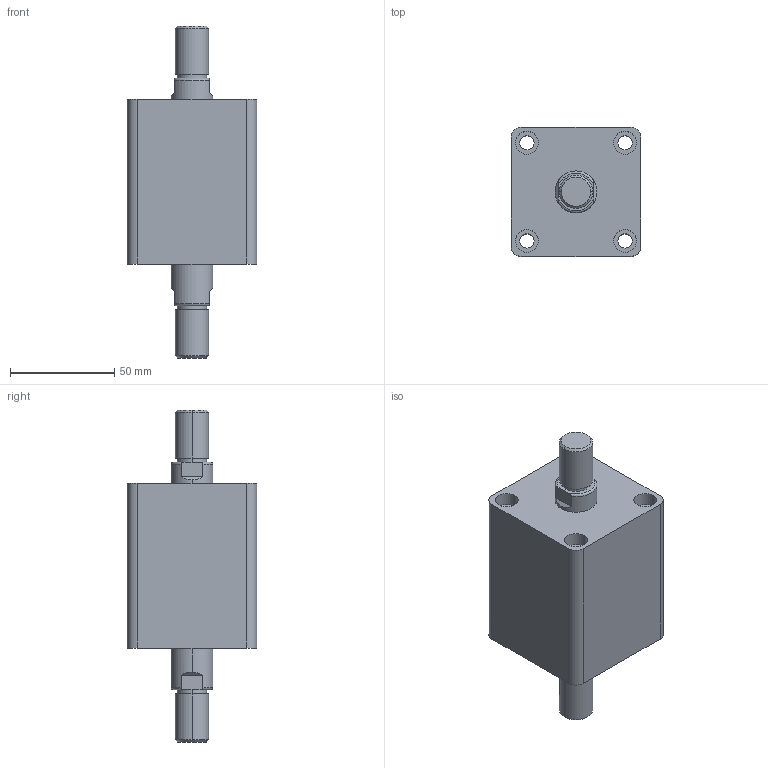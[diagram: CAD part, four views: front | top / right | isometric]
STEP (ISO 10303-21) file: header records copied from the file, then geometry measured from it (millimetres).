
FILE_DESCRIPTION (( 'STEP AP203' ), '1' );
FILE_NAME ('HTB-SW32-10W.STEP', '2019-10-07T08:50:21', ( '微软用户' ), ( '微软中国' ), 'SwSTEP 2.0', 'SolidWorks 2012', '' );
FILE_SCHEMA (( 'CONFIG_CONTROL_DESIGN' ));
Length unit declared in the file: millimetre
Products named in the file (3): HTB-SW32-10W; HTB-SW32-10W活塞杆; HTB-SW32-10掛极
Assembly tree (2 placements, depth 2):
  HTB-SW32-10W
    HTB-SW32-10掛极
    HTB-SW32-10W活塞杆
Bounding box: 62 x 62 x 159 mm (x, y, z)
Volume: 299247.4 mm3; surface area: 52395.1 mm2
Topology: 2 solids, 2 shells, 108 faces, 240 edges, 156 vertices
Faces by surface type: cylinder 52, plane 36, torus 12, cone 8
Entity records: 3449 total; most frequent: CARTESIAN_POINT 629, DIRECTION 586, ORIENTED_EDGE 480, AXIS2_PLACEMENT_3D 249, EDGE_CURVE 240, VERTEX_POINT 156, EDGE_LOOP 138, CIRCLE 136
